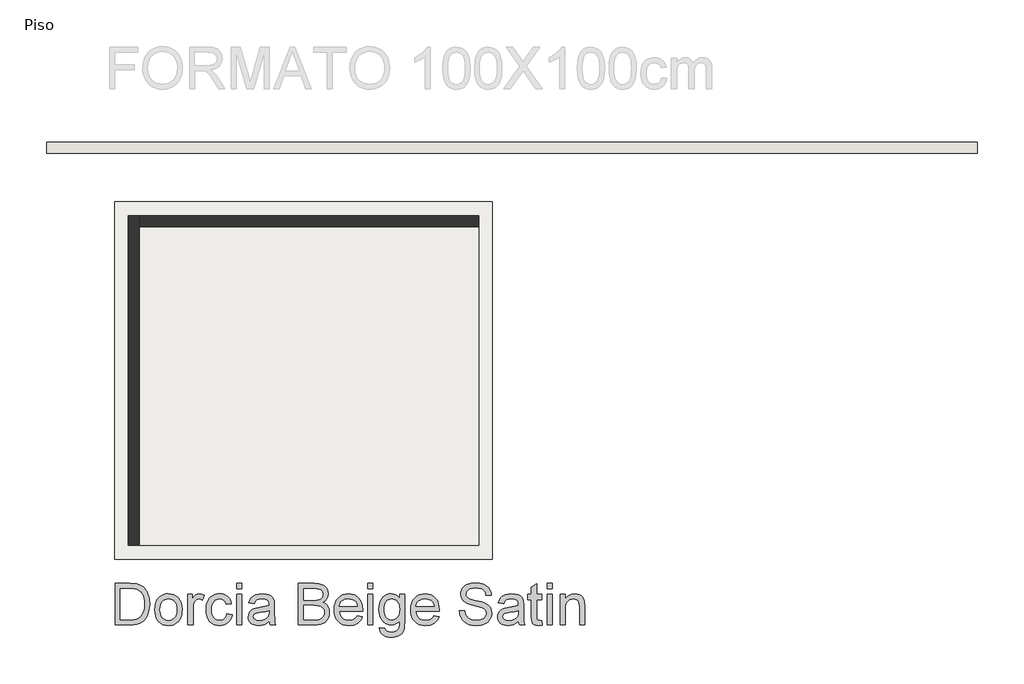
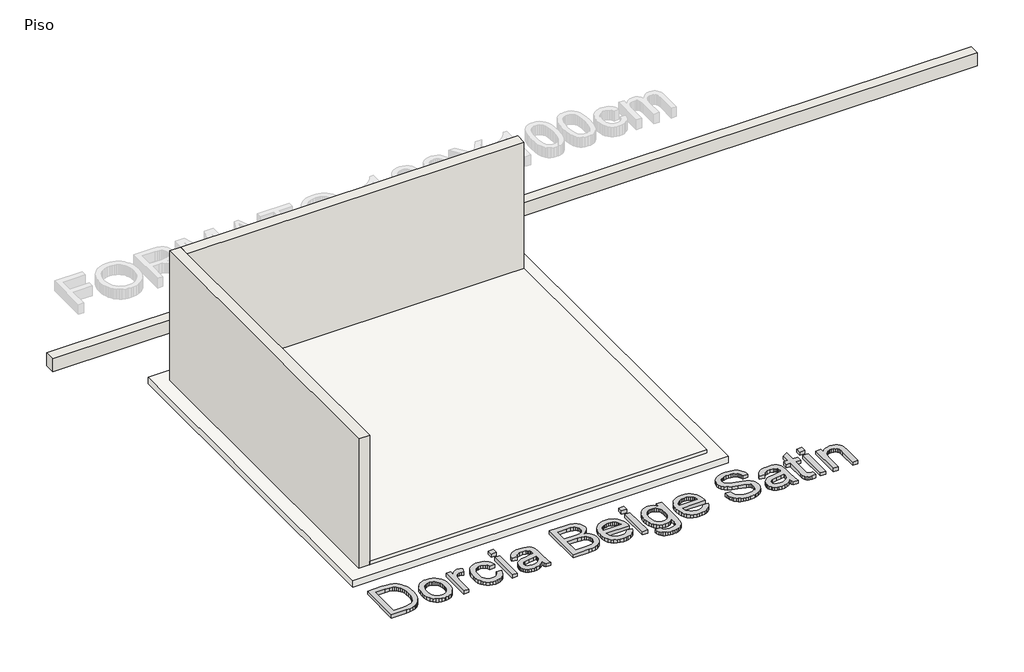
# One storey, part 1 of 2: 3 walls, 2 slabs, 1 proxy.
"""IFC4 building model written with IfcOpenShell, lengths in millimetres."""

from ifc_helpers import new_model, si_unit, frame, origin, origin_with_axes, place, context, project, spatial, polyline, outline, extrude, faceted_brep, element, save

model = new_model("IFC4")

# Units and contexts
model_context = context("Model", 3, world=origin())
ifc_project = project(units=[si_unit("LENGTHUNIT", "METRE", prefix="MILLI")], contexts=[model_context])

# Site, building, storey
site = spatial("IfcSite", under=ifc_project)
building = spatial("IfcBuilding", under=site)
storey = spatial("IfcBuildingStorey", under=building, Name="Piso", Elevation=0.0)

# Proxy
placement = place(None, origin())
element("IfcBuildingElementProxy", 1, Name="600mm Arial", ObjectType="600mm Arial", at=placement, inside=storey, context=model_context, shape_type="SweptSolid", body=[
    extrude(outline(polyline([(92681.9146505, -5073.2131695), (92681.9146505, -4470.4753086), (92889.8415542, -4470.4753086), (92951.9768232, -4472.6458124), (92997.4102496, -4479.1573237), (93045.4556381, -4495.8959545), (93085.996234, -4522.2730935), (93108.3358682, -4543.8309784), (93127.6772641, -4568.1847665), (93144.0204217, -4595.3344578), (93157.3653411, -4625.2800522), (93167.7304163, -4657.7456382), (93175.1340414, -4692.4553045), (93181.0569416, -4768.6068775), (93177.0470278, -4833.2989263), (93165.0172866, -4890.2286651), (93146.6967632, -4938.697118), (93123.8145031, -4978.0053091), (93097.4741523, -5009.0361554), (93068.7793566, -5032.6725736), (93035.835524, -5050.2021507), (92996.748062, -5062.9124736), (92951.4433943, -5070.6379955), (92899.8479445, -5073.2131695), (92681.9146505, -5073.2131695)]), holes=[polyline([(92757.2568831, -4997.8709369), (92890.5773182, -4997.8709369), (92945.7228293, -4995.1486101), (92987.5510121, -4986.9816298), (93019.1152873, -4973.8482426), (93043.4690754, -4956.226695), (93069.6438793, -4923.6139562), (93089.307172, -4881.3994972), (93101.6128247, -4829.3993772), (93105.714709, -4767.4296551), (93103.7051536, -4723.6884859), (93097.6764874, -4685.3183938), (93087.6287104, -4652.3193788), (93073.5618226, -4624.691441), (93056.6162582, -4601.8091809), (93037.9324513, -4583.0471991), (93017.5104021, -4568.4054957), (92995.3501104, -4557.8840706), (92952.0136114, -4548.8341736), (92888.517179, -4545.8175412), (92757.2568831, -4545.8175412), (92757.2568831, -4997.8709369)])]), origin_with_axes(), (0.0, 0.0, 1.0), 50.0),
    extrude(outline(polyline([(93256.3991742, -4851.8953612), (93260.4734673, -4794.5701493), (93272.6963466, -4745.1727944), (93293.0678121, -4703.7032965), (93321.5878637, -4670.1616556), (93350.3010535, -4648.7233323), (93381.9940873, -4633.4102443), (93416.6669654, -4624.2223914), (93454.3196876, -4621.1597738), (93495.8857545, -4624.8891775), (93533.4694988, -4636.0773887), (93567.0709206, -4654.7244074), (93596.6900197, -4680.8302334), (93620.8644653, -4713.5119502), (93638.1319265, -4751.8866408), (93648.4924032, -4795.9543053), (93651.9458954, -4845.7149437), (93650.4191851, -4886.0440074), (93645.8390543, -4921.8297285), (93638.2055029, -4953.0721069), (93627.5185309, -4979.7711427), (93613.9114956, -5002.8327453), (93597.5177542, -5023.162824), (93578.3373067, -5040.761379), (93556.370153, -5055.6284101), (93532.4716189, -5067.4420207), (93507.49703, -5075.880314), (93481.4463862, -5080.9432899), (93454.3196876, -5082.6309486), (93412.1466154, -5078.9153404), (93374.2133831, -5067.768516), (93340.5199909, -5049.1904752), (93311.0664387, -5023.1812181), (93287.1495105, -4990.1822032), (93270.0659903, -4950.6348887), (93259.8158782, -4904.5392747), (93256.3991742, -4851.8953612)]), holes=[polyline([(93331.7414068, -4851.7482084), (93333.9211076, -4888.2926861), (93340.4602101, -4919.9351362), (93351.3587142, -4946.6755587), (93366.6166199, -4968.5139537), (93385.1762666, -4985.4779122), (93405.9799934, -4997.5950254), (93429.0278004, -5004.8652933), (93454.3196876, -5007.288716), (93479.4828161, -5004.8514977), (93502.4386526, -4997.5398431), (93523.1871971, -4985.353752), (93541.7284496, -4968.2932245), (93556.9863554, -4946.2386989), (93567.8848595, -4919.0706135), (93574.423962, -4886.7889684), (93576.6036628, -4849.3937636), (93574.4101664, -4814.0081142), (93567.8296772, -4783.1933986), (93556.8621952, -4756.9496168), (93541.5077204, -4735.2767687), (93522.89749, -4718.3128102), (93502.1627411, -4706.195697), (93479.3034736, -4698.9254291), (93454.3196876, -4696.5020064), (93429.0278004, -4698.916232), (93405.9799934, -4706.1589088), (93385.1762666, -4718.2300368), (93366.6166199, -4735.1296159), (93351.3587142, -4756.9036315), (93340.4602101, -4783.5980688), (93333.9211076, -4815.2129277), (93331.7414068, -4851.7482084)])]), origin_with_axes(), (0.0, 0.0, 1.0), 50.0),
    extrude(outline(polyline([(93736.7059071, -5073.2131695), (93736.7059071, -4630.5775529), (93802.6303606, -4630.5775529), (93802.6303606, -4696.060548), (93826.9841487, -4658.0951261), (93849.4249504, -4635.7279008), (93871.9393285, -4624.8018056), (93896.5138458, -4621.1597738), (93934.0378093, -4626.9723093), (93972.150384, -4644.4099159), (93946.9872555, -4711.9530502), (93920.4997519, -4700.3647674), (93894.0122482, -4696.5020064), (93871.5162642, -4700.2176146), (93851.4115132, -4711.364439), (93835.1695231, -4729.0963512), (93824.2618219, -4752.5672225), (93815.1015603, -4794.6529227), (93812.0481397, -4840.5645957), (93812.0481397, -5073.2131695), (93736.7059071, -5073.2131695)])), origin_with_axes(), (0.0, 0.0, 1.0), 50.0),
    extrude(outline(polyline([(94301.7726517, -4913.1109252), (94377.1148843, -4922.5287043), (94368.9203128, -4958.0799006), (94356.1088224, -4989.5384097), (94338.6804128, -5016.9042316), (94316.6350843, -5040.1773663), (94290.9017387, -5058.7508086), (94262.4092782, -5072.017553), (94231.1577027, -5079.9775997), (94197.1470122, -5082.6309486), (94154.8911666, -5078.929136), (94117.0039196, -5067.8236983), (94083.4852713, -5049.3146354), (94054.3352217, -5023.4019473), (94030.7401903, -4990.5730778), (94013.8865963, -4951.3154704), (94003.77444, -4905.6291251), (94000.4037212, -4853.514042), (94006.1610745, -4786.4675484), (94013.357766, -4756.2966262), (94023.4331341, -4728.3605872), (94036.4561568, -4703.2204514), (94052.4958117, -4681.4372387), (94071.5520991, -4663.0109493), (94093.6250188, -4647.9415831), (94117.716691, -4636.2245415), (94142.8292357, -4627.8552261), (94168.9626529, -4622.8336369), (94196.1169427, -4621.1597738), (94229.5436204, -4623.4590363), (94259.7789219, -4630.3568237), (94286.8228471, -4641.853136), (94310.675396, -4657.9479733), (94330.9318983, -4678.2734536), (94347.187684, -4702.4616948), (94359.4427529, -4730.5126969), (94367.6971052, -4762.42646), (94292.3548726, -4771.844239), (94278.6880565, -4738.9739828), (94257.4060831, -4715.411141), (94229.6861747, -4701.2292901), (94196.7055539, -4696.5020064), (94171.1055655, -4698.8288601), (94148.0163718, -4705.8094209), (94127.4379727, -4717.443689), (94109.3703682, -4733.7316643), (94094.6596869, -4755.050426), (94084.1520574, -4781.7770529), (94077.8474797, -4813.9115452), (94075.7459538, -4851.4539028), (94077.8014945, -4889.561879), (94083.9681164, -4922.0688518), (94094.2458197, -4948.9748212), (94108.6346042, -4970.2797872), (94126.3435238, -4986.4711936), (94146.581632, -4998.0364838), (94169.348929, -5004.9756579), (94194.6454147, -5007.288716), (94233.6593003, -5001.5129686), (94250.5312883, -4994.2932845), (94265.6466397, -4984.1857267), (94278.5822904, -4971.0799306), (94288.9151759, -4954.8655316), (94296.6452964, -4935.5425298), (94301.7726517, -4913.1109252)])), origin_with_axes(), (0.0, 0.0, 1.0), 50.0),
    extrude(outline(polyline([(94443.0393378, -4545.8175412), (94443.0393378, -4470.4753086), (94518.3815704, -4470.4753086), (94518.3815704, -4545.8175412), (94443.0393378, -4545.8175412)])), origin_with_axes(), (0.0, 0.0, 1.0), 50.0),
    extrude(outline(polyline([(94443.0393378, -5073.2131695), (94443.0393378, -4630.5775529), (94518.3815704, -4630.5775529), (94518.3815704, -5073.2131695), (94443.0393378, -5073.2131695)])), origin_with_axes(), (0.0, 0.0, 1.0), 50.0),
    extrude(outline(polyline([(94913.9282916, -5016.706495), (94877.9310384, -5047.5717944), (94840.8669274, -5067.768516), (94801.88983, -5078.9153404), (94760.1536177, -5082.6309486), (94726.6073782, -5080.3960654), (94697.1906142, -5073.6914161), (94671.9033255, -5062.5170005), (94650.7455123, -5046.8728186), (94634.0390712, -5027.7521519), (94622.105899, -5006.1482818), (94614.9459956, -4982.0612081), (94612.5593612, -4955.490931), (94616.1646048, -4924.2577496), (94626.9803354, -4895.8940478), (94643.6637839, -4871.6138361), (94664.8721809, -4852.6311252), (94689.7961861, -4838.2837274), (94717.626459, -4827.9094551), (94782.8151486, -4816.5786897), (94859.8496384, -4804.659313), (94913.4868333, -4790.6797972), (94913.9282916, -4773.9043782), (94908.7411555, -4740.2799639), (94902.2572354, -4727.8271583), (94893.1797471, -4718.2806205), (94877.48958, -4708.7524769), (94858.3781104, -4701.94666), (94809.8912634, -4696.5020064), (94765.00966, -4700.1256441), (94733.666114, -4710.996557), (94712.2921701, -4731.1013081), (94697.3193729, -4762.42646), (94621.9771403, -4753.0086809), (94635.0553452, -4711.8058974), (94654.5714851, -4679.4322819), (94682.3465757, -4654.6738236), (94720.201633, -4636.316512), (94766.4995821, -4624.9489584), (94819.6033481, -4621.1597738), (94870.5366103, -4624.5075), (94910.9116593, -4634.5506784), (94941.3538944, -4649.6522343), (94962.488715, -4668.1750928), (94976.505019, -4691.075747), (94985.5917043, -4719.3106901), (94989.2705243, -4785.2351437), (94989.2705243, -4878.971476), (94993.096497, -5009.8638899), (94998.7618797, -5042.2191114), (95008.1060824, -5073.2131695), (94932.7638498, -5073.2131695), (94920.6973204, -5047.0199714), (94913.9282916, -5016.706495)]), holes=[polyline([(94913.9282916, -4866.0220298), (94863.3077291, -4878.5668058), (94792.3800804, -4889.1250191), (94727.5592729, -4901.3387013), (94710.6918834, -4909.6896226), (94698.2022897, -4921.2043291), (94690.4767678, -4934.9999039), (94687.9015938, -4950.1934303), (94693.5117942, -4972.5974438), (94710.3423955, -4990.9547554), (94738.0255157, -5003.2052258), (94776.1932727, -5007.288716), (94816.6602921, -5002.7821615), (94852.4184221, -4989.2624982), (94881.4075233, -4969.3416882), (94901.5674566, -4945.6316936), (94910.5069891, -4921.2043291), (94913.4868333, -4887.3591855), (94913.9282916, -4866.0220298)])]), origin_with_axes(), (0.0, 0.0, 1.0), 50.0),
    extrude(outline(polyline([(95337.7283501, -5073.2131695), (95337.7283501, -4470.4753086), (95567.7281735, -4470.4753086), (95630.9854825, -4474.9082866), (95680.3736404, -4488.2072208), (95700.4508003, -4498.2641948), (95718.2286977, -4510.7032048), (95733.7073327, -4525.5242506), (95746.8867051, -4542.7273324), (95764.931317, -4580.3984488), (95770.9461876, -4619.8353986), (95765.8878102, -4656.1269575), (95750.7126779, -4690.2480125), (95725.3104261, -4720.1016364), (95689.5706903, -4743.5909018), (95712.3103961, -4753.2845924), (95732.2633958, -4765.8845507), (95749.4296894, -4781.3907768), (95763.8092769, -4799.8032707), (95775.172232, -4820.5610123), (95783.2886286, -4843.1029815), (95788.1584665, -4867.4291784), (95789.7817458, -4893.539603), (95785.3487677, -4935.570121), (95772.0498336, -4974.5472184), (95752.2026, -5007.6933862), (95728.1247234, -5032.2311152), (95698.6389815, -5049.9998156), (95662.5681518, -5062.8388972), (95618.7350121, -5070.6196014), (95565.9623399, -5073.2131695), (95337.7283501, -5073.2131695)]), holes=[polyline([(95413.0705827, -4715.3375646), (95550.6584489, -4715.3375646), (95598.7774139, -4713.7188838), (95631.0038766, -4708.8628415), (95659.1284552, -4697.6976229), (95679.3435708, -4680.9773862), (95691.538859, -4658.9596488), (95695.603955, -4631.9019281), (95691.8147705, -4605.6351536), (95680.4472168, -4582.7528935), (95662.0163288, -4564.8922227), (95637.0371414, -4553.6902159), (95598.7038375, -4547.7857099), (95540.2106002, -4545.8175412), (95413.0705827, -4545.8175412), (95413.0705827, -4715.3375646)]), polyline([(95413.0705827, -4997.8709369), (95567.5810207, -4997.8709369), (95623.4990839, -4994.9278809), (95649.4531587, -4988.3979755), (95670.8087085, -4978.5203439), (95688.1727387, -4964.3752812), (95702.1522545, -4945.0430824), (95711.3676985, -4921.3882701), (95714.4395132, -4894.275367), (95710.8342696, -4862.7846683), (95700.0185389, -4835.7085534), (95681.1277985, -4814.5369446), (95653.2975256, -4800.7597639), (95613.8789698, -4793.1997889), (95560.2233808, -4790.6797972), (95413.0705827, -4790.6797972), (95413.0705827, -4997.8709369)])]), origin_with_axes(), (0.0, 0.0, 1.0), 50.0),
    extrude(outline(polyline([(96193.8633293, -4941.3642624), (96267.7340339, -4950.7820415), (96256.407867, -4980.368951), (96241.1177715, -5006.4425874), (96221.8637476, -5029.0029507), (96198.6457952, -5048.050041), (96171.7030376, -5063.1791881), (96141.2745981, -5073.9857217), (96107.3604766, -5080.4696418), (96069.9606733, -5082.6309486), (96023.2120688, -5078.9015448), (95981.5586299, -5067.7133337), (95945.0003566, -5049.066315), (95913.5372489, -5022.960489), (95888.2361647, -4990.1224224), (95870.1639617, -4951.2786822), (95859.3206399, -4906.4292685), (95855.7061993, -4855.5741811), (95859.3574281, -4802.994647), (95870.3111145, -4756.6507126), (95888.5672585, -4716.5423781), (95914.1258601, -4682.6696434), (95945.5061943, -4655.7590755), (95981.2275361, -4636.5372412), (96021.2898853, -4625.0041407), (96065.6932421, -4621.1597738), (96108.6664577, -4624.9949436), (96147.528592, -4636.500453), (96182.2796449, -4655.676302), (96212.9196166, -4682.5224906), (96237.9309938, -4716.3216489), (96255.7962632, -4756.356407), (96266.5154248, -4802.626765), (96270.0884787, -4855.1327228), (96269.6470203, -4875.4398089), (95931.0484319, -4875.4398089), (95935.4124321, -4905.5049649), (95944.0898486, -4931.8361187), (95957.0806816, -4954.4332703), (95974.3849309, -4973.2964196), (95995.0461035, -4988.1680493), (96018.1077061, -4998.7906419), (96043.5697387, -5005.1641974), (96071.4322013, -5007.288716), (96111.5313387, -5003.3523786), (96145.3029059, -4991.5433666), (96172.7469027, -4971.1259158), (96193.8633293, -4941.3642624)]), holes=[polyline([(95931.0484319, -4800.0975763), (96194.7462461, -4800.0975763), (96184.5559148, -4760.2927444), (96175.7911263, -4744.6393655), (96164.5799225, -4731.818678), (96144.033713, -4716.3676342), (96120.6548122, -4705.3311743), (96094.4432201, -4698.7092984), (96065.3989366, -4696.5020064), (96038.9068344, -4698.2632415), (96014.6128271, -4703.5469466), (95992.5169148, -4712.3531219), (95972.6190974, -4724.6817673), (95955.9218533, -4739.9626656), (95943.4276611, -4757.6255999), (95935.1365206, -4777.6705701), (95931.0484319, -4800.0975763)])]), origin_with_axes(), (0.0, 0.0, 1.0), 50.0),
    extrude(outline(polyline([(96345.4307113, -4545.8175412), (96345.4307113, -4470.4753086), (96420.7729439, -4470.4753086), (96420.7729439, -4545.8175412), (96345.4307113, -4545.8175412)])), origin_with_axes(), (0.0, 0.0, 1.0), 50.0),
    extrude(outline(polyline([(96345.4307113, -5073.2131695), (96345.4307113, -4630.5775529), (96420.7729439, -4630.5775529), (96420.7729439, -5073.2131695), (96345.4307113, -5073.2131695)])), origin_with_axes(), (0.0, 0.0, 1.0), 50.0),
    extrude(outline(polyline([(96514.9507347, -5110.8842858), (96590.2929673, -5120.3020649), (96598.6071004, -5143.8465126), (96614.7203318, -5160.0333204), (96646.3949715, -5172.6148846), (96687.8552724, -5176.8087393), (96732.0746882, -5172.0630616), (96749.9353591, -5166.1309644), (96764.9633386, -5157.8260284), (96787.7720223, -5135.0173447), (96801.7515381, -5104.5567155), (96805.8350282, -5072.1463117), (96806.901886, -5016.706495), (96781.8307281, -5041.4281651), (96753.8533023, -5059.0865009), (96722.9696088, -5069.6815023), (96689.1796476, -5073.2131695), (96647.871098, -5069.1020882), (96611.5013643, -5056.7688443), (96580.0704463, -5036.2134378), (96553.5783442, -5007.4358688), (96532.5584867, -4972.9101435), (96517.5443027, -4935.1102685), (96508.5357924, -4894.0362437), (96505.5329556, -4849.6880692), (96510.9224268, -4788.8587813), (96527.0908405, -4732.922324), (96539.0745965, -4707.6994147), (96553.4679796, -4685.5207289), (96570.2709897, -4666.3862666), (96589.4836269, -4650.2960278), (96610.79779, -4637.5489167), (96633.9053778, -4628.4438373), (96658.8063903, -4622.9807897), (96685.5008276, -4621.1597738), (96720.7347257, -4625.2800522), (96752.7128681, -4637.6408872), (96781.4352549, -4658.2422789), (96806.901886, -4687.0842274), (96806.901886, -4630.5775529), (96882.2441186, -4630.5775529), (96882.2441186, -5012.7333695), (96877.0937707, -5100.969866), (96870.6558358, -5133.7895385), (96861.6427269, -5159.0768272), (96849.8383134, -5179.4712853), (96835.0264646, -5197.6124662), (96817.2071804, -5213.5003698), (96796.380461, -5227.1349963), (96772.7578384, -5238.0794856), (96746.5508447, -5245.896978), (96717.7594801, -5250.5874735), (96686.3837444, -5252.1509719), (96649.4713847, -5249.9482785), (96616.2838302, -5243.3401982), (96586.8210809, -5232.3267309), (96561.0831369, -5216.9078768), (96540.2932056, -5197.0652417), (96525.6744948, -5172.7804315), (96517.2270045, -5144.0534462), (96514.9507347, -5110.8842858)]), holes=[polyline([(96580.8751882, -4844.5377213), (96582.8847436, -4881.7903718), (96588.9134098, -4913.6443541), (96598.9611868, -4940.0996681), (96613.0280746, -4961.1563138), (96630.1299888, -4977.2189614), (96649.2828452, -4988.6922811), (96670.4866437, -4995.5762729), (96693.7413843, -4997.8709369), (96716.7661987, -4995.5900685), (96737.8688296, -4988.7474634), (96757.0492772, -4977.3431215), (96774.3075413, -4961.377043), (96788.5675671, -4940.5273309), (96798.7532998, -4914.4720886), (96804.8647395, -4883.211316), (96806.901886, -4846.7450133), (96804.8049587, -4811.8008222), (96798.5141765, -4781.427565), (96788.0295397, -4755.6252416), (96773.3510481, -4734.3938519), (96755.7203035, -4717.8161695), (96736.3789076, -4705.9749678), (96715.3268604, -4698.8702468), (96692.5641619, -4696.5020064), (96670.183141, -4698.8334586), (96649.5403626, -4705.827815), (96630.6358266, -4717.4850757), (96613.469533, -4733.8052407), (96599.2095071, -4754.7147336), (96589.0237744, -4780.139978), (96582.9123347, -4810.0809739), (96580.8751882, -4844.5377213)])]), origin_with_axes(), (0.0, 0.0, 1.0), 50.0),
    extrude(outline(polyline([(97305.1612603, -4941.3642624), (97379.0319649, -4950.7820415), (97367.705798, -4980.368951), (97352.4157026, -5006.4425874), (97333.1616787, -5029.0029507), (97309.9437262, -5048.050041), (97283.0009686, -5063.1791881), (97252.5725291, -5073.9857217), (97218.6584077, -5080.4696418), (97181.2586043, -5082.6309486), (97134.5099998, -5078.9015448), (97092.8565609, -5067.7133337), (97056.2982876, -5049.066315), (97024.83518, -5022.960489), (96999.5340958, -4990.1224224), (96981.4618927, -4951.2786822), (96970.6185709, -4906.4292685), (96967.0041303, -4855.5741811), (96970.6553591, -4802.994647), (96981.6090455, -4756.6507126), (96999.8651896, -4716.5423781), (97025.4237912, -4682.6696434), (97056.8041254, -4655.7590755), (97092.5254671, -4636.5372412), (97132.5878164, -4625.0041407), (97176.9911732, -4621.1597738), (97219.9643887, -4624.9949436), (97258.826523, -4636.500453), (97293.577576, -4655.676302), (97324.2175476, -4682.5224906), (97349.2289248, -4716.3216489), (97367.0941942, -4756.356407), (97377.8133558, -4802.626765), (97381.3864097, -4855.1327228), (97380.9449513, -4875.4398089), (97042.3463629, -4875.4398089), (97046.7103631, -4905.5049649), (97055.3877797, -4931.8361187), (97068.3786126, -4954.4332703), (97085.682862, -4973.2964196), (97106.3440345, -4988.1680493), (97129.4056371, -4998.7906419), (97154.8676697, -5005.1641974), (97182.7301323, -5007.288716), (97222.8292698, -5003.3523786), (97256.6008369, -4991.5433666), (97284.0448338, -4971.1259158), (97305.1612603, -4941.3642624)]), holes=[polyline([(97042.3463629, -4800.0975763), (97306.0441771, -4800.0975763), (97295.8538458, -4760.2927444), (97287.0890573, -4744.6393655), (97275.8778535, -4731.818678), (97255.3316441, -4716.3676342), (97231.9527433, -4705.3311743), (97205.7411511, -4698.7092984), (97176.6968676, -4696.5020064), (97150.2047654, -4698.2632415), (97125.9107581, -4703.5469466), (97103.8148458, -4712.3531219), (97083.9170284, -4724.6817673), (97067.2197843, -4739.9626656), (97054.7255921, -4757.6255999), (97046.4344516, -4777.6705701), (97042.3463629, -4800.0975763)])]), origin_with_axes(), (0.0, 0.0, 1.0), 50.0),
    extrude(outline(polyline([(97673.3375611, -4866.0220298), (97748.6797937, -4866.0220298), (97757.3250206, -4907.8318186), (97772.9600054, -4941.4378388), (97797.3505816, -4968.1092835), (97832.262583, -4989.1153454), (97874.9368944, -5002.7453733), (97922.614401, -5007.288716), (97964.5897367, -5003.8490193), (98001.341148, -4993.5299293), (98031.1211955, -4977.1959688), (98052.1824397, -4955.7116602), (98064.7088216, -4931.0451725), (98068.8842823, -4905.1646741), (98065.7572853, -4879.9463633), (98056.3762944, -4858.1493551), (98037.3200071, -4839.5529203), (98005.1671207, -4823.9363296), (97895.4647098, -4795.1679575), (97823.4518092, -4776.1300643), (97777.3745893, -4758.011876), (97739.8690199, -4732.6648066), (97713.2895457, -4701.94666), (97697.4522259, -4666.5196238), (97692.1731192, -4627.0458857), (97693.8055956, -4604.6096826), (97698.7030246, -4582.9184404), (97706.8654064, -4561.9721593), (97718.2927409, -4541.7708393), (97732.8562694, -4523.1376162), (97750.4272332, -4506.8956261), (97771.0056323, -4493.044869), (97794.5914667, -4481.5853448), (97847.6032622, -4466.1894834), (97906.2804404, -4461.0575295), (97969.8504492, -4466.4286066), (98025.4742069, -4482.541838), (98049.8096008, -4494.5439881), (98071.1651507, -4509.0661299), (98089.5408563, -4526.1082633), (98104.9367178, -4545.6703884), (98117.2331735, -4567.1822881), (98126.3106617, -4590.0737452), (98132.1691825, -4614.3447599), (98134.8087358, -4639.995332), (98059.4665032, -4639.995332), (98054.4265199, -4615.9542436), (98045.6341402, -4595.0401522), (98033.0893642, -4577.2530577), (98016.7921918, -4562.5929602), (97996.4391204, -4551.133436), (97971.7266474, -4542.9480616), (97942.6547727, -4538.036837), (97909.2234964, -4536.3997621), (97874.7253623, -4538.0184429), (97845.2488174, -4542.8744852), (97820.7938618, -4550.9678891), (97801.3604954, -4562.2986546), (97786.5532451, -4575.9194855), (97775.9766377, -4590.8830856), (97769.6306733, -4607.1894551), (97767.5153518, -4624.8385938), (97769.014471, -4640.0229231), (97773.5118284, -4653.7909068), (97781.007424, -4666.1425448), (97791.5012579, -4677.0778371), (97808.0191595, -4687.4337152), (97834.0284166, -4697.899958), (97914.5209971, -4719.1635373), (97997.5887516, -4739.3602589), (98047.8414322, -4756.9818064), (98090.7916551, -4784.3154387), (98107.3969287, -4800.3826848), (98120.7556436, -4818.0502176), (98131.0241498, -4837.2260666), (98138.3587971, -4857.8182613), (98144.2265149, -4903.2516877), (98142.5388562, -4926.819128), (98137.4758803, -4949.6967896), (98129.037587, -4971.8846724), (98117.2239765, -4993.3827765), (98102.2419822, -5013.3587689), (98084.2985379, -5030.9803164), (98063.3936435, -5046.2474192), (98039.5272991, -5059.1600773), (98013.3938818, -5069.4285835), (97985.6877691, -5076.7632307), (97925.557457, -5082.6309486), (97887.0172194, -5081.049056), (97851.7419346, -5076.3033783), (97819.7316025, -5068.3939154), (97790.9862231, -5057.3206673), (97765.3310525, -5043.06524), (97742.5913467, -5025.6092393), (97722.7671056, -5004.9526653), (97705.8583294, -4981.0955179), (97692.2374986, -4954.8103493), (97682.2770936, -4926.8697118), (97675.9771144, -4897.2736053), (97673.3375611, -4866.0220298)])), origin_with_axes(), (0.0, 0.0, 1.0), 50.0),
    extrude(outline(polyline([(98530.355457, -5016.706495), (98494.3582038, -5047.5717944), (98457.2940928, -5067.768516), (98418.3169954, -5078.9153404), (98376.5807831, -5082.6309486), (98343.0345436, -5080.3960654), (98313.6177796, -5073.6914161), (98288.3304909, -5062.5170005), (98267.1726777, -5046.8728186), (98250.4662366, -5027.7521519), (98238.5330644, -5006.1482818), (98231.373161, -4982.0612081), (98228.9865266, -4955.490931), (98232.5917701, -4924.2577496), (98243.4075008, -4895.8940478), (98260.0909493, -4871.6138361), (98281.2993463, -4852.6311252), (98306.2233515, -4838.2837274), (98334.0536244, -4827.9094551), (98399.242314, -4816.5786897), (98476.2768037, -4804.659313), (98529.9139986, -4790.6797972), (98530.355457, -4773.9043782), (98525.1683209, -4740.2799639), (98518.6844007, -4727.8271583), (98509.6069125, -4718.2806205), (98493.9167454, -4708.7524769), (98474.8052758, -4701.94666), (98426.3184288, -4696.5020064), (98381.4368254, -4700.1256441), (98350.0932794, -4710.996557), (98328.7193355, -4731.1013081), (98313.7465383, -4762.42646), (98238.4043057, -4753.0086809), (98251.4825106, -4711.8058974), (98270.9986504, -4679.4322819), (98298.7737411, -4654.6738236), (98336.6287984, -4636.316512), (98382.9267475, -4624.9489584), (98436.0305135, -4621.1597738), (98486.9637757, -4624.5075), (98527.3388247, -4634.5506784), (98557.7810598, -4649.6522343), (98578.9158804, -4668.1750928), (98592.9321844, -4691.075747), (98602.0188697, -4719.3106901), (98605.6976896, -4785.2351437), (98605.6976896, -4878.971476), (98609.5236624, -5009.8638899), (98615.1890451, -5042.2191114), (98624.5332478, -5073.2131695), (98549.1910152, -5073.2131695), (98537.1244857, -5047.0199714), (98530.355457, -5016.706495)]), holes=[polyline([(98530.355457, -4866.0220298), (98479.7348945, -4878.5668058), (98408.8072458, -4889.1250191), (98343.9864383, -4901.3387013), (98327.1190488, -4909.6896226), (98314.6294551, -4921.2043291), (98306.9039332, -4934.9999039), (98304.3287592, -4950.1934303), (98309.9389596, -4972.5974438), (98326.7695609, -4990.9547554), (98354.452681, -5003.2052258), (98392.620438, -5007.288716), (98433.0874575, -5002.7821615), (98468.8455874, -4989.2624982), (98497.8346887, -4969.3416882), (98517.994622, -4945.6316936), (98526.9341545, -4921.2043291), (98529.9139986, -4887.3591855), (98530.355457, -4866.0220298)])]), origin_with_axes(), (0.0, 0.0, 1.0), 50.0),
    extrude(outline(polyline([(98869.3955038, -5010.3789247), (98878.8132829, -5075.4204615), (98822.4537612, -5082.6309486), (98786.2909611, -5079.5039516), (98759.3252108, -5070.1229607), (98740.2689235, -5055.6651983), (98727.834512, -5037.3078868), (98720.9919069, -5005.7803998), (98718.7110386, -4951.8121111), (98718.7110386, -4705.9197855), (98662.2043641, -4705.9197855), (98662.2043641, -4630.5775529), (98718.7110386, -4630.5775529), (98718.7110386, -4523.0088575), (98794.0532712, -4478.7158653), (98794.0532712, -4630.5775529), (98869.3955038, -4630.5775529), (98869.3955038, -4705.9197855), (98794.0532712, -4705.9197855), (98794.0532712, -4949.6048191), (98798.0263967, -4988.4531578), (98810.9022666, -5002.2119444), (98821.7731795, -5006.0195231), (98836.5804298, -5007.288716), (98869.3955038, -5010.3789247)])), origin_with_axes(), (0.0, 0.0, 1.0), 50.0),
    extrude(outline(polyline([(98944.7377364, -4545.8175412), (98944.7377364, -4470.4753086), (99020.079969, -4470.4753086), (99020.079969, -4545.8175412), (98944.7377364, -4545.8175412)])), origin_with_axes(), (0.0, 0.0, 1.0), 50.0),
    extrude(outline(polyline([(98944.7377364, -5073.2131695), (98944.7377364, -4630.5775529), (99020.079969, -4630.5775529), (99020.079969, -5073.2131695), (98944.7377364, -5073.2131695)])), origin_with_axes(), (0.0, 0.0, 1.0), 50.0),
    extrude(outline(polyline([(99133.0933179, -5073.2131695), (99133.0933179, -4630.5775529), (99208.4355505, -4630.5775529), (99208.4355505, -4692.3817281), (99234.6103545, -4661.2221231), (99266.045871, -4638.9652624), (99302.7421, -4625.611146), (99344.6990416, -4621.1597738), (99381.836729, -4624.7466233), (99415.8474194, -4635.5071716), (99444.2111213, -4652.0986496), (99464.4078428, -4673.1782879), (99478.1114471, -4698.6909043), (99486.9957973, -4728.5813164), (99490.9689228, -4801.4219515), (99490.9689228, -5073.2131695), (99415.6266902, -5073.2131695), (99415.6266902, -4811.5754945), (99413.4561865, -4772.6167912), (99406.9446751, -4744.915277), (99394.933328, -4725.0680434), (99376.2633167, -4709.6721819), (99352.332593, -4699.7945503), (99324.5391082, -4696.5020064), (99301.6614466, -4698.3506135), (99280.4116629, -4703.8964345), (99260.789757, -4713.1394697), (99242.7957289, -4726.0797188), (99227.7631509, -4744.1887101), (99217.0255951, -4768.9379713), (99210.5830617, -4800.3275025), (99208.4355505, -4838.3573038), (99208.4355505, -5073.2131695), (99133.0933179, -5073.2131695)])), origin_with_axes(), (0.0, 0.0, 1.0), 50.0),
])

# Slabs
element("IfcSlab", 2, ObjectType="5cm - Porcelanato Dorcia Beige Satin  - Acetinado 100x100", at=placement, inside=storey, context=model_context, shape_type="SweptSolid", body=[
    extrude(outline(polyline([(97951.6048774, 702.9204618), (97951.6048774, -3917.6795382), (93031.0048774, -3917.6795382), (93031.0048774, 702.9204618), (97951.6048774, 702.9204618)])), origin_with_axes(), (0.0, 0.0, 1.0), 50.0),
])
element("IfcSlab", 3, ObjectType="CO02 - Concreto Estrutural Simples", at=placement, inside=storey, context=model_context, shape_type="SweptSolid", body=[
    extrude(outline(polyline([(98151.6048774, 1061.7204618), (98151.6048774, -4117.6795382), (92672.2048774, -4117.6795382), (92672.2048774, 1061.7204618), (98151.6048774, 1061.7204618)])), frame((0.0, 0.0, -100.0), z_axis=(0.0, 0.0, 1.0), x_axis=(1.0, 0.0, 0.0)), (0.0, 0.0, 1.0), 100.0),
])

# Walls
element("IfcWall", 4, ObjectType="CO01 - Bloco de Concreto 14cm / Pintura Branca Simples", at=placement, inside=storey, context=model_context, shape_type="SweptSolid", body=[
    extrude(outline(polyline([(105186.699165, 1765.7486968), (91686.699165, 1765.7486968), (91686.699165, 1924.5486968), (105186.699165, 1924.5486968), (105186.699165, 1765.7486968)])), origin_with_axes(), (0.0, 0.0, 1.0), 200.0),
])
element("IfcWall", 5, ObjectType="CO01 - Bloco de Concreto 14cm / Pintura Branca Simples", at=placement, inside=storey, context=model_context, shape_type="Brep", body=[
    faceted_brep([(93031.0048774, -3917.6795382, 0.0), (93031.0048774, 702.9204618, 0.0), (93031.0048774, 861.7204618, 0.0), (93031.0048774, 861.7204618, 2000.0), (93031.0048774, 702.9204618, 2000.0), (93031.0048774, -3917.6795382, 2000.0), (92872.2048774, -3917.6795382, 0.0), (92872.2048774, -3917.6795382, 2000.0), (92872.2048774, 861.7204618, 2000.0), (92872.2048774, 861.7204618, 0.0)], [[[0, 1, 2, 3, 4, 5]], [[6, 7, 8, 9]], [[2, 1, 0, 6, 9]], [[5, 4, 3, 8, 7]], [[0, 5, 7, 6]], [[3, 2, 9, 8]]]),
])
element("IfcWall", 6, ObjectType="CO01 - Bloco de Concreto 14cm / Pintura Branca Simples", at=placement, inside=storey, context=model_context, shape_type="SweptSolid", body=[
    extrude(outline(polyline([(97951.6048774, 702.9204618), (93031.0048774, 702.9204618), (93031.0048774, 861.7204618), (97951.6048774, 861.7204618), (97951.6048774, 702.9204618)])), origin_with_axes(), (0.0, 0.0, 1.0), 2000.0),
])

save(model, "model.ifc")
